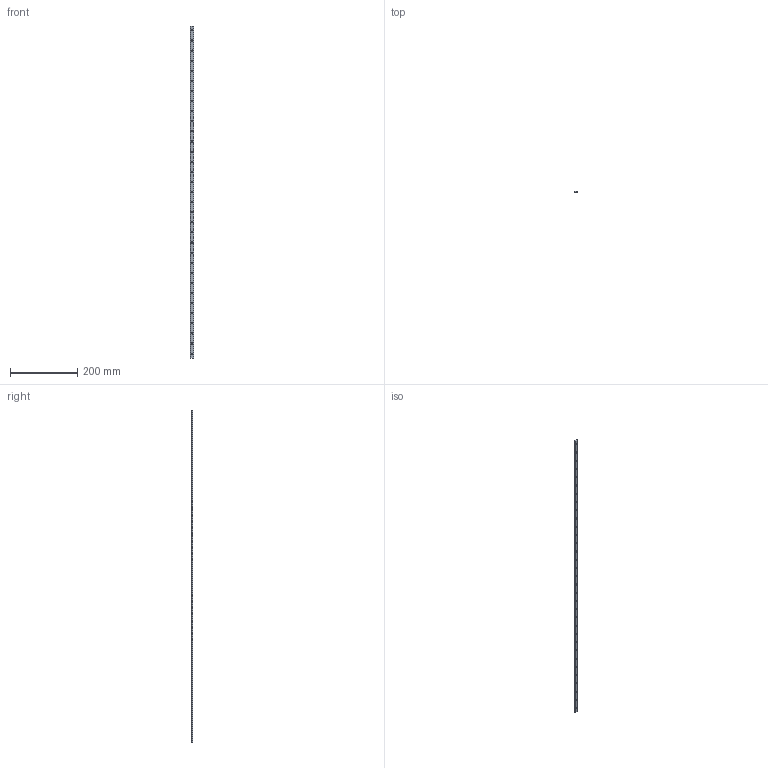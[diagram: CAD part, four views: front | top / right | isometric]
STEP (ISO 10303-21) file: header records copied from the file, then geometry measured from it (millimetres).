
FILE_DESCRIPTION(('STEP AP203'),'1');
FILE_NAME('slide_ms12l986p2.stp','2022-07-01T05:52:42',('TraceParts'),('TraceParts S.A.'),'Spatial InterOp 3D',' ',' ');
FILE_SCHEMA(('CONFIG_CONTROL_DESIGN'));
Length unit declared in the file: millimetre
Products named in the file (1): 1
Bounding box: 11.81 x 3.2 x 986 mm (x, y, z)
Volume: 31141.2 mm3; surface area: 26406.4 mm2
Topology: 1 solids, 1 shells, 78 faces, 228 edges, 152 vertices
Faces by surface type: cylinder 70, plane 8
Entity records: 2848 total; most frequent: DIRECTION 526, CARTESIAN_POINT 459, ORIENTED_EDGE 456, EDGE_CURVE 228, AXIS2_PLACEMENT_3D 219, VERTEX_POINT 152, EDGE_LOOP 144, CIRCLE 140
